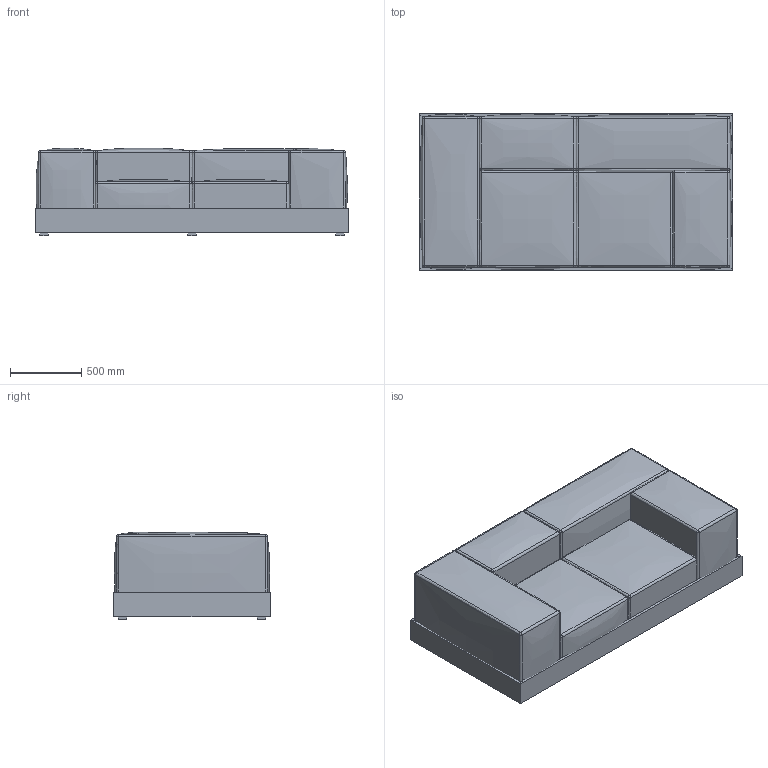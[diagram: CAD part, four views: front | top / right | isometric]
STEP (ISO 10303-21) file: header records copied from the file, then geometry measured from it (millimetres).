
FILE_DESCRIPTION(/* description */ (''),/* implementation_level */ '2;1');
FILE_NAME(/* name */ 'Polp1 220 sco.step',/* time_stamp */ '2024-01-07T10:05:30+01:00',/* author */ (''),/* organization */ (''),/* preprocessor_version */ 'ST-DEVELOPER v20',/* originating_system */ 'Autodesk Translation Framework v12.14.0.127',/* authorisation */ '');
FILE_SCHEMA (('AUTOMOTIVE_DESIGN { 1 0 10303 214 3 1 1 }'));
Products named in the file (1): Polp1 220 sco
Bounding box: 2200 x 1100 x 616 mm (x, y, z)
Volume: 1164964705.6 mm3; surface area: 19232736.4 mm2
Topology: 22 solids, 22 shells, 252 faces, 481 edges, 273 vertices
Faces by surface type: plane 106, bspline 94, sphere 48, cylinder 4
Entity records: 39511 total; most frequent: CARTESIAN_POINT 34894, ORIENTED_EDGE 962, DIRECTION 808, EDGE_CURVE 481, AXIS2_PLACEMENT_3D 304, VERTEX_POINT 273, FACE_OUTER_BOUND 252, EDGE_LOOP 252
